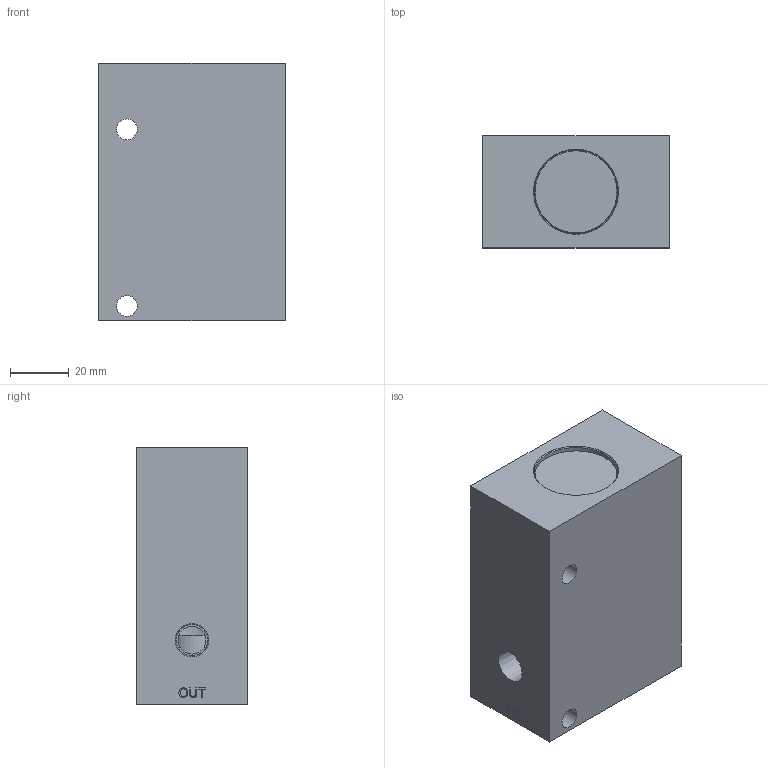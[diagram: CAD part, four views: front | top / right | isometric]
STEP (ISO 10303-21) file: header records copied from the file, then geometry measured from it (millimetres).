
FILE_DESCRIPTION(/* description */ (''),/* implementation_level */ '2;1');
FILE_NAME(/* name */ 'L:\ALADCO\Advertising\3D Content\Valves\Step Files - 2014-11-19 thru Present\42250X.stp',/* time_stamp */ '2014-11-19T16:16:37-06:00',/* author */ ('dmatz'),/* organization */ (''),/* preprocessor_version */ 'ST-DEVELOPER v15.2',/* originating_system */ 'Autodesk Inventor 2014',/* authorisation */ '');
FILE_SCHEMA (('AUTOMOTIVE_DESIGN { 1 0 10303 214 3 1 1 }'));
Length unit declared in the file: inch
Products named in the file (4): 552500NPTF; 321002; 301076; 522501
Bounding box: 63.5 x 38.1 x 87.99 mm (x, y, z)
Volume: 175837.3 mm3; surface area: 38963 mm2
Topology: 3 solids, 3 shells, 170 faces, 396 edges, 260 vertices
Faces by surface type: plane 95, bspline 26, cylinder 24, cone 16, torus 9
Full cylindrical faces by diameter (mm): 1.499 x1, 7.112 x2, 9.144 x1, 9.525 x2, 10.719 x3, 12.7 x1, 13.081 x1, 15.081 x1, 17.577 x1, 22.149 x1, 24.409 x1, 24.435 x1, 25.4 x2, 28.524 x4, 28.575 x2
Entity records: 5028 total; most frequent: CARTESIAN_POINT 1322, ORIENTED_EDGE 654, DIRECTION 646, EDGE_CURVE 327, EDGE_LOOP 262, VERTEX_POINT 243, AXIS2_PLACEMENT_3D 223, LINE 200
